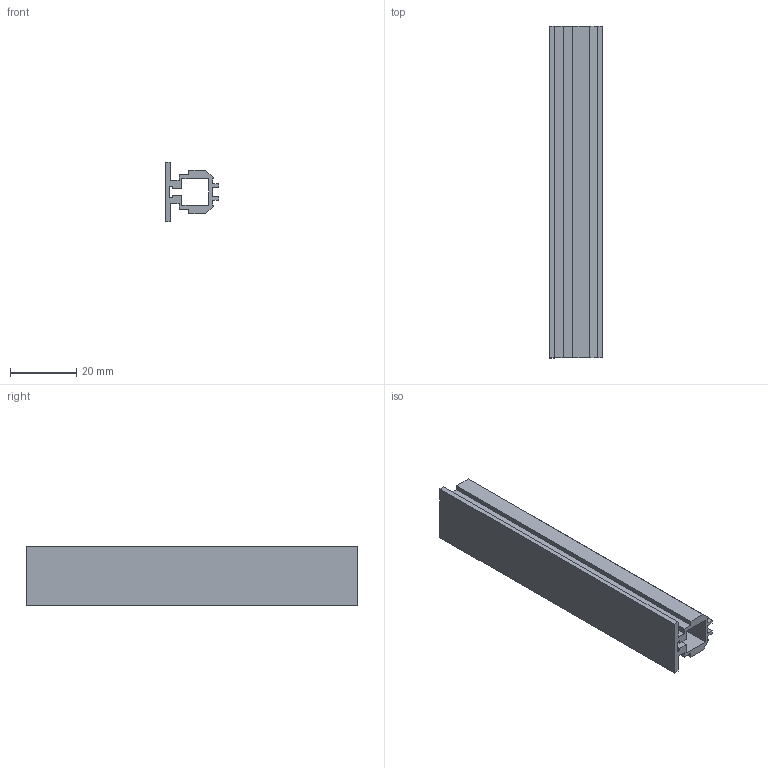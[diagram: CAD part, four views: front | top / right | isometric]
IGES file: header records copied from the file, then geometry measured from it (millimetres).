
Start section: Data from Parasolid IGES Translator 20.0.26, Copyright(c) 2006 Siemens P LM Software. All Rights Reserved.
Global section: file name: 9303914.igs; native system: By Siemens PLM Incorporated; preprocessor: XPlus GENERIC/IGES 20.0.26; author: Noname; organization: Noname; date: 20210826.155225; units: millimetre
Bounding box: 16 x 100 x 18 mm (x, y, z)
Surface area: 12758.8 mm2 (no closed solid volume)
Topology: 0 solids, 0 shells, 44 faces, 252 edges, 252 vertices
Faces by surface type: extrusion 44
